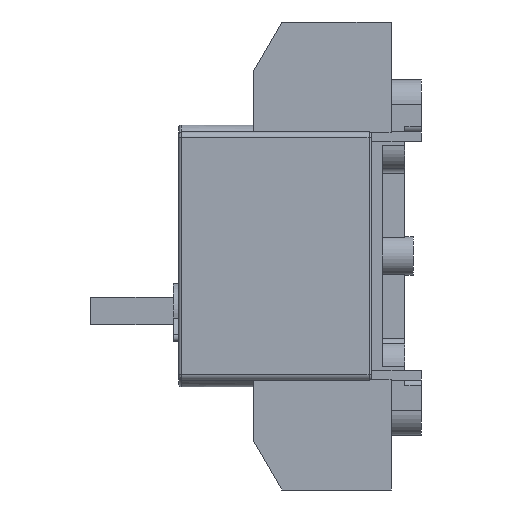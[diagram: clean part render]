
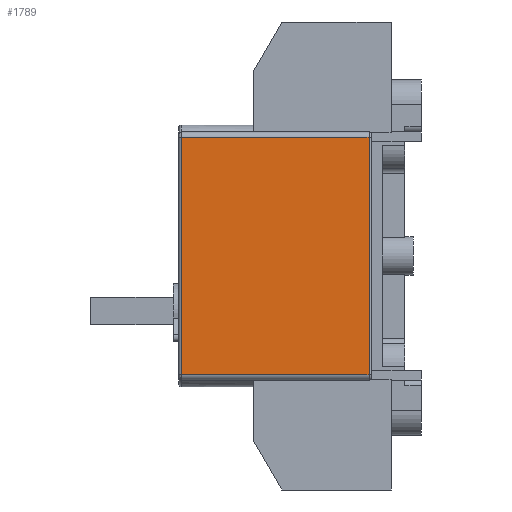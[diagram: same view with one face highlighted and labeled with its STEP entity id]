
A CAD part, left-side view. The second image highlights one B-rep face of the part: STEP entity #1789.
In plain terms, the highlighted planar face has unit normal (-1, 0, 0).
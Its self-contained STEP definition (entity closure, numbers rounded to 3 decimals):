
#245=FACE_OUTER_BOUND('',#2520,.T.);
#566=LINE('',#9201,#1122);
#729=LINE('',#9948,#1285);
#736=LINE('',#10000,#1292);
#737=LINE('',#10002,#1293);
#1122=VECTOR('',#7390,1.);
#1285=VECTOR('',#8043,1.);
#1292=VECTOR('',#8068,1.);
#1293=VECTOR('',#8071,1.);
#1789=ADVANCED_FACE('',(#245),#1992,.F.);
#1992=PLANE('',#6545);
#2520=EDGE_LOOP('',(#3826,#3827,#3828,#3829));
#3826=ORIENTED_EDGE('',*,*,#5610,.F.);
#3827=ORIENTED_EDGE('',*,*,#5596,.T.);
#3828=ORIENTED_EDGE('',*,*,#5611,.T.);
#3829=ORIENTED_EDGE('',*,*,#5289,.T.);
#4612=VERTEX_POINT('',#9191);
#4616=VERTEX_POINT('',#9200);
#4807=VERTEX_POINT('',#9915);
#4811=VERTEX_POINT('',#9947);
#5289=EDGE_CURVE('',#4612,#4616,#566,.T.);
#5596=EDGE_CURVE('',#4807,#4811,#729,.T.);
#5610=EDGE_CURVE('',#4807,#4616,#736,.T.);
#5611=EDGE_CURVE('',#4811,#4612,#737,.T.);
#6545=AXIS2_PLACEMENT_3D('',#10003,#8072,#8073);
#7390=DIRECTION('',(0.,0.,1.));
#8043=DIRECTION('',(0.,0.,-1.));
#8068=DIRECTION('',(0.,-1.,0.));
#8071=DIRECTION('',(0.,-1.,0.));
#8072=DIRECTION('',(1.,0.,0.));
#8073=DIRECTION('',(0.,0.,-1.));
#9191=CARTESIAN_POINT('',(-41.,1.,-43.));
#9200=CARTESIAN_POINT('',(-41.,1.,43.));
#9201=CARTESIAN_POINT('',(-41.,1.,-43.));
#9915=CARTESIAN_POINT('',(-41.,69.,43.));
#9947=CARTESIAN_POINT('',(-41.,69.,-43.));
#9948=CARTESIAN_POINT('',(-41.,69.,-43.));
#10000=CARTESIAN_POINT('',(-41.,35.,43.));
#10002=CARTESIAN_POINT('',(-41.,35.,-43.));
#10003=CARTESIAN_POINT('',(-41.,35.,-43.));
